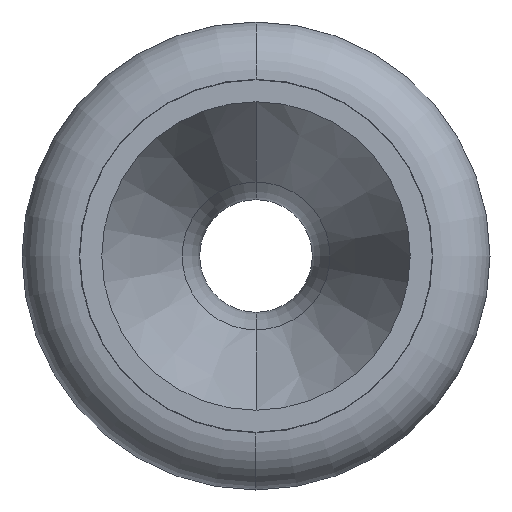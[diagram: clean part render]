
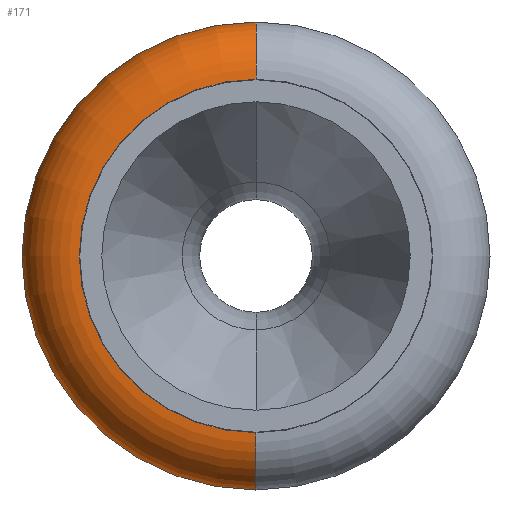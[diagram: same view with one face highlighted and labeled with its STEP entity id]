
A CAD part, left-side view. The second image highlights one B-rep face of the part: STEP entity #171.
In plain terms, the highlighted toroidal (fillet/blend) face has major radius 9.25 mm and minor radius 3 mm.
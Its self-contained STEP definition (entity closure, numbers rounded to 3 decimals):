
#171=ADVANCED_FACE('',(#388),#389,.T.);
#388=FACE_OUTER_BOUND('',#668,.T.);
#389=TOROIDAL_SURFACE('',#669,9.25,3.);
#668=EDGE_LOOP('',(#1097,#1098,#1099,#1100));
#669=AXIS2_PLACEMENT_3D('',#1101,#1102,#1103);
#1097=ORIENTED_EDGE('',*,*,#1571,.T.);
#1098=ORIENTED_EDGE('',*,*,#1655,.F.);
#1099=ORIENTED_EDGE('',*,*,#1656,.F.);
#1100=ORIENTED_EDGE('',*,*,#1657,.F.);
#1101=CARTESIAN_POINT('',(8.,0.0,0.));
#1102=DIRECTION('',(-1.0,0.0,0.));
#1103=DIRECTION('',(0.,0.0,1.0));
#1571=EDGE_CURVE('',#1812,#1811,#1856,.T.);
#1655=EDGE_CURVE('',#1988,#1811,#1989,.T.);
#1656=EDGE_CURVE('',#1990,#1988,#1991,.T.);
#1657=EDGE_CURVE('',#1812,#1990,#1992,.T.);
#1811=VERTEX_POINT('',#2168);
#1812=VERTEX_POINT('',#2169);
#1856=CIRCLE('',#2213,12.25);
#1988=VERTEX_POINT('',#2363);
#1989=CIRCLE('',#2364,3.);
#1990=VERTEX_POINT('',#2365);
#1991=CIRCLE('',#2366,9.25);
#1992=CIRCLE('',#2367,3.);
#2168=CARTESIAN_POINT('',(8.,0.,-12.25));
#2169=CARTESIAN_POINT('',(8.,0.,12.25));
#2213=AXIS2_PLACEMENT_3D('',#2630,#2631,#2632);
#2363=CARTESIAN_POINT('',(5.,0.,-9.25));
#2364=AXIS2_PLACEMENT_3D('',#2786,#2787,#2788);
#2365=CARTESIAN_POINT('',(5.,0.,9.25));
#2366=AXIS2_PLACEMENT_3D('',#2789,#2790,#2791);
#2367=AXIS2_PLACEMENT_3D('',#2792,#2793,#2794);
#2630=CARTESIAN_POINT('',(8.,0.0,0.));
#2631=DIRECTION('',(-1.0,0.0,0.));
#2632=DIRECTION('',(0.,0.0,1.0));
#2786=CARTESIAN_POINT('',(8.,0.,-9.25));
#2787=DIRECTION('',(0.,-1.0,0.));
#2788=DIRECTION('',(0.,0.,-1.0));
#2789=CARTESIAN_POINT('',(5.,0.0,0.));
#2790=DIRECTION('',(-1.0,0.0,0.));
#2791=DIRECTION('',(0.,0.0,-1.0));
#2792=CARTESIAN_POINT('',(8.,0.,9.25));
#2793=DIRECTION('',(0.,-1.0,0.));
#2794=DIRECTION('',(0.,0.,1.0));
